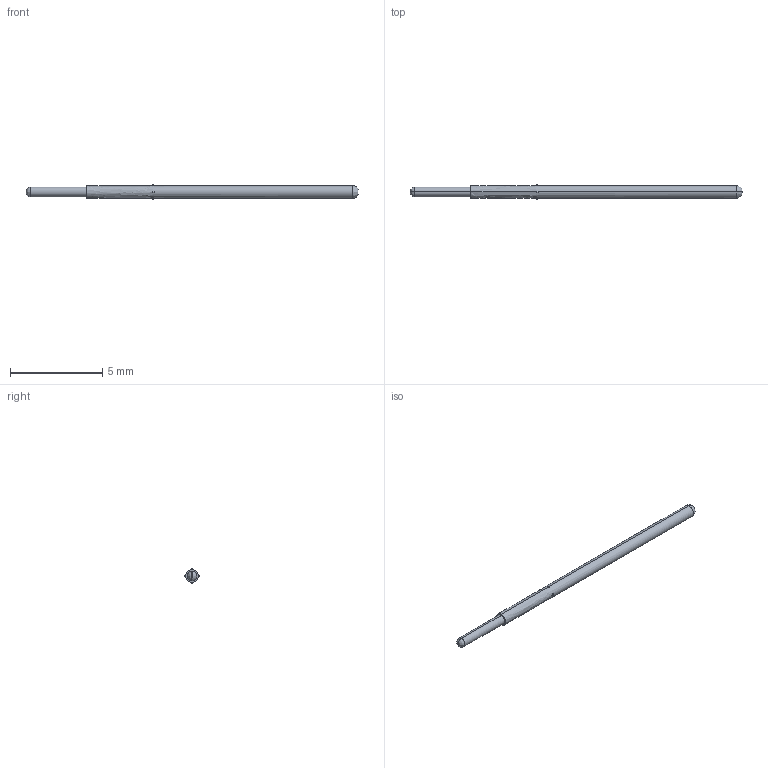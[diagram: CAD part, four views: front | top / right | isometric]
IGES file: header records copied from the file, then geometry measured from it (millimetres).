
Start section: SolidWorks IGES file using analytic representation for surfaces
Global section: file name: O:\PYLON\IGES FILES\P2662A\P2662A-1R1S.IGS; native system: SolidWorks 2015; preprocessor: SolidWorks 2015; author: kgolden; date: 171019.090642; units: inch
Bounding box: 18 x 0.79 x 0.79 mm (x, y, z)
Surface area: 40 mm2 (no closed solid volume)
Topology: 0 solids, 0 shells, 21 faces, 192 edges, 176 vertices
Faces by surface type: revolution 14, bspline 7
